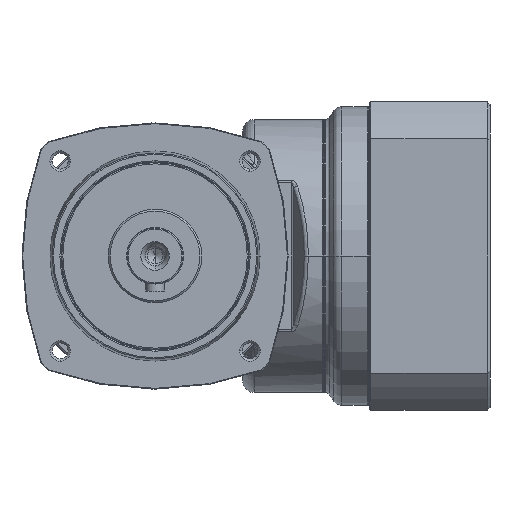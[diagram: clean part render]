
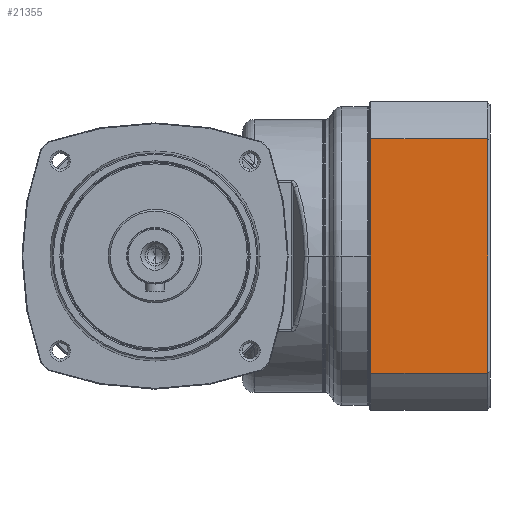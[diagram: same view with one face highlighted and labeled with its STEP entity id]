
A CAD part, left-side view. The second image highlights one B-rep face of the part: STEP entity #21355.
In plain terms, the highlighted planar face has unit normal (-1, 0, 0) as drawn and (0, -1, 0) by its records, which use the part's own axes.
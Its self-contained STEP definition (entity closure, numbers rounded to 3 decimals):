
#20118=DIRECTION('',(1.,0.,0.));
#20119=VECTOR('',#20118,100.658);
#20120=CARTESIAN_POINT('',(-50.329,-66.,53.));
#20121=LINE('',#20120,#20119);
#20122=DIRECTION('',(0.,0.,1.));
#20123=VECTOR('',#20122,50.1);
#20124=CARTESIAN_POINT('',(50.329,-66.,
2.9));
#20125=LINE('',#20124,#20123);
#20126=DIRECTION('',(1.,0.,0.));
#20127=VECTOR('',#20126,100.658);
#20128=CARTESIAN_POINT('',(-50.329,-66.,
2.9));
#20129=LINE('',#20128,#20127);
#20130=DIRECTION('',(0.,0.,1.));
#20131=VECTOR('',#20130,50.1);
#20132=CARTESIAN_POINT('',(-50.329,-66.,
2.9));
#20133=LINE('',#20132,#20131);
#20139=CARTESIAN_POINT('',(50.329,-66.,53.));
#20454=CARTESIAN_POINT('',(-50.329,-66.,2.9));
#20456=VERTEX_POINT('',#20454);
#20459=CARTESIAN_POINT('',(50.329,-66.,
2.9));
#20460=VERTEX_POINT('',#20459);
#20506=CARTESIAN_POINT('',(-50.329,-66.,53.));
#20508=VERTEX_POINT('',#20506);
#20516=VERTEX_POINT('',#20139);
#21343=CARTESIAN_POINT('',(-66.,-66.,0.));
#21344=DIRECTION('',(0.,-1.,0.));
#21345=DIRECTION('',(1.,0.,0.));
#21346=AXIS2_PLACEMENT_3D('',#21343,#21344,#21345);
#21347=PLANE('',#21346);
#21349=ORIENTED_EDGE('',*,*,#21348,.T.);
#21350=ORIENTED_EDGE('',*,*,#21259,.F.);
#21351=ORIENTED_EDGE('',*,*,#21337,.F.);
#21352=ORIENTED_EDGE('',*,*,#21270,.T.);
#21353=EDGE_LOOP('',(#21349,#21350,#21351,#21352));
#21354=FACE_OUTER_BOUND('',#21353,.F.);
#21355=ADVANCED_FACE('',(#21354),#21347,.T.);
#21259=EDGE_CURVE('',#20460,#20516,#20125,.T.);
#21270=EDGE_CURVE('',#20456,#20508,#20133,.T.);
#21337=EDGE_CURVE('',#20456,#20460,#20129,.T.);
#21348=EDGE_CURVE('',#20508,#20516,#20121,.T.);
